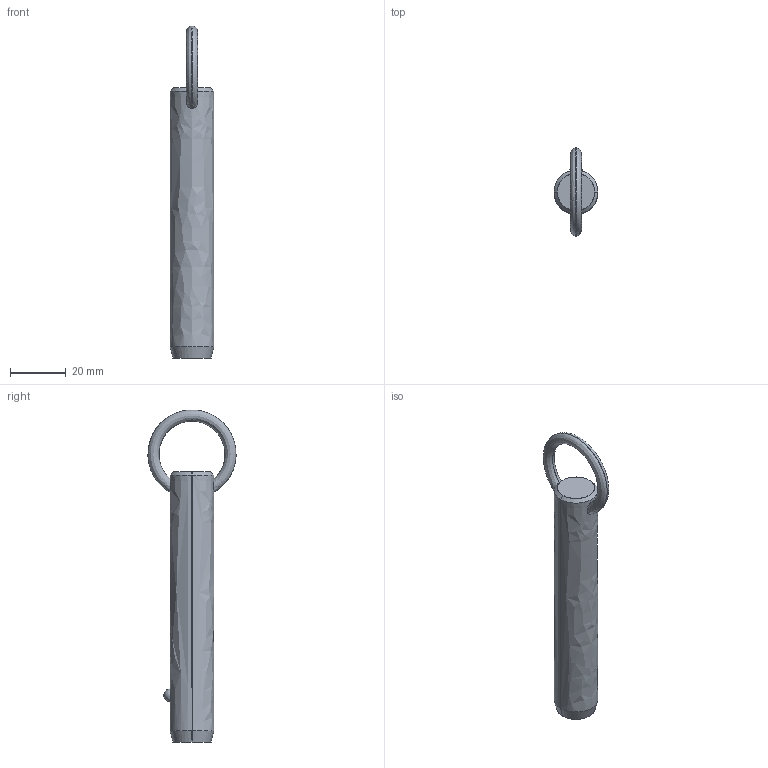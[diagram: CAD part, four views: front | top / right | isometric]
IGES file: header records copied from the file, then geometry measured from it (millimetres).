
Start section: SolidWorks IGES file using analytic representation for surfaces
Global section: file name: C:\Users\liam_\OneDrive\Documents\WORK\Work for WixRoyd\Job Files\J-00019 - Matt Davis CAD Checking\04. CAD Drawings\automotion20190605\P1250.2_v2\P1250.2_v2_20190729_IGES\P1250.062-270.igs; native system: SolidWorks 2017; preprocessor: SolidWorks 2017; author: liam_; date: 190729.233343; units: millimetre
Bounding box: 15.8 x 31.67 x 119.3 mm (x, y, z)
Surface area: 5993.6 mm2 (no closed solid volume)
Topology: 0 solids, 0 shells, 12 faces, 292 edges, 290 vertices
Faces by surface type: revolution 8, bspline 4
